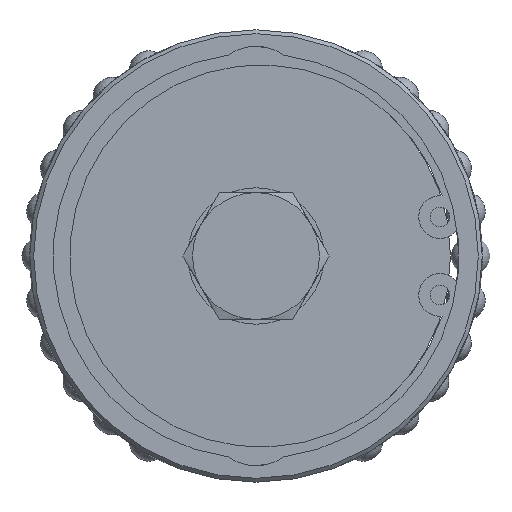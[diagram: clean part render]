
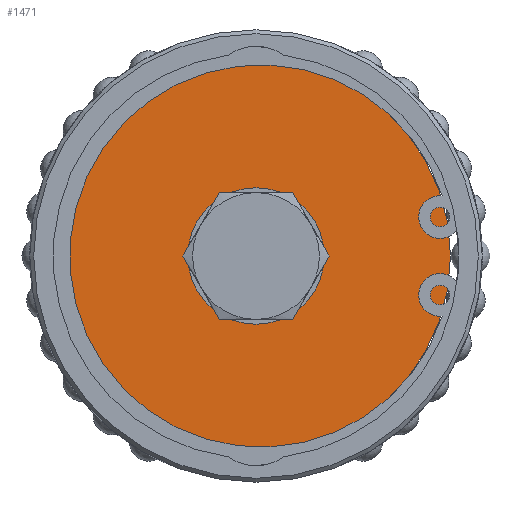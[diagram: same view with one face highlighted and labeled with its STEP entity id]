
A CAD part, left-side view. The second image highlights one B-rep face of the part: STEP entity #1471.
In plain terms, the highlighted planar face has unit normal (-1, 0, 0).
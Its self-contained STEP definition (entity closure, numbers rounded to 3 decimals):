
#181=FACE_BOUND('',#433,.T.);
#195=PLANE('',#1642);
#283=FACE_OUTER_BOUND('',#432,.T.);
#432=EDGE_LOOP('',(#1159,#1160,#1161,#1162));
#433=EDGE_LOOP('',(#1163));
#600=CIRCLE('',#1629,6.);
#601=CIRCLE('',#1631,4.9);
#603=CIRCLE('',#1634,19.95);
#605=CIRCLE('',#1637,4.9);
#607=CIRCLE('',#1640,19.95);
#711=VERTEX_POINT('',#3955);
#712=VERTEX_POINT('',#3959);
#713=VERTEX_POINT('',#3960);
#716=VERTEX_POINT('',#3968);
#718=VERTEX_POINT('',#3974);
#862=EDGE_CURVE('',#711,#711,#600,.T.);
#863=EDGE_CURVE('',#712,#713,#601,.T.);
#867=EDGE_CURVE('',#713,#716,#603,.T.);
#870=EDGE_CURVE('',#716,#718,#605,.T.);
#873=EDGE_CURVE('',#718,#712,#607,.T.);
#1159=ORIENTED_EDGE('',*,*,#873,.T.);
#1160=ORIENTED_EDGE('',*,*,#863,.T.);
#1161=ORIENTED_EDGE('',*,*,#867,.T.);
#1162=ORIENTED_EDGE('',*,*,#870,.T.);
#1163=ORIENTED_EDGE('',*,*,#862,.T.);
#1471=ADVANCED_FACE('',(#283,#181),#195,.T.);
#1629=AXIS2_PLACEMENT_3D('',#3957,#1924,#1925);
#1631=AXIS2_PLACEMENT_3D('',#3961,#1928,#1929);
#1634=AXIS2_PLACEMENT_3D('',#3969,#1936,#1937);
#1637=AXIS2_PLACEMENT_3D('',#3975,#1943,#1944);
#1640=AXIS2_PLACEMENT_3D('',#3980,#1950,#1951);
#1642=AXIS2_PLACEMENT_3D('',#3982,#1954,#1955);
#1924=DIRECTION('center_axis',(1.,0.,0.));
#1925=DIRECTION('ref_axis',(0.,0.,-1.));
#1928=DIRECTION('center_axis',(-1.,0.,0.));
#1929=DIRECTION('ref_axis',(0.,-0.796,0.605));
#1936=DIRECTION('center_axis',(-1.,0.,0.));
#1937=DIRECTION('ref_axis',(0.,0.196,0.981));
#1943=DIRECTION('center_axis',(-1.,0.,0.));
#1944=DIRECTION('ref_axis',(0.,0.796,-0.605));
#1950=DIRECTION('center_axis',(-1.,0.,0.));
#1951=DIRECTION('ref_axis',(0.,-0.196,-0.981));
#1954=DIRECTION('center_axis',(-1.,0.,0.));
#1955=DIRECTION('ref_axis',(0.,0.,1.));
#3955=CARTESIAN_POINT('',(40.,0.,6.));
#3957=CARTESIAN_POINT('Origin',(40.,0.,0.));
#3959=CARTESIAN_POINT('',(40.,-3.901,19.565));
#3960=CARTESIAN_POINT('',(40.,3.901,19.565));
#3961=CARTESIAN_POINT('Origin',(40.,0.,16.6));
#3968=CARTESIAN_POINT('',(40.,3.901,-19.565));
#3969=CARTESIAN_POINT('Origin',(40.,0.,0.));
#3974=CARTESIAN_POINT('',(40.,-3.901,-19.565));
#3975=CARTESIAN_POINT('Origin',(40.,0.,-16.6));
#3980=CARTESIAN_POINT('Origin',(40.,0.,0.));
#3982=CARTESIAN_POINT('Origin',(40.,0.,0.));
